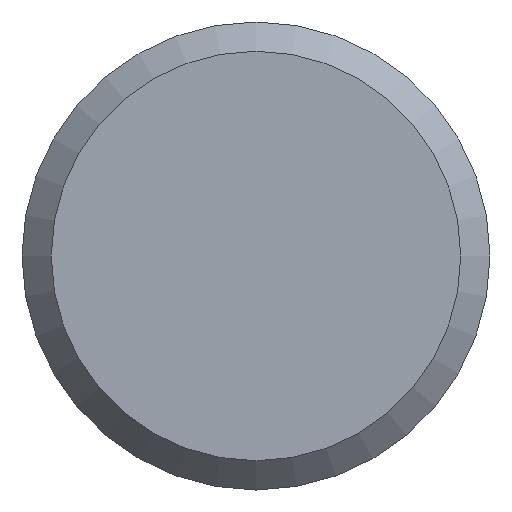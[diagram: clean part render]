
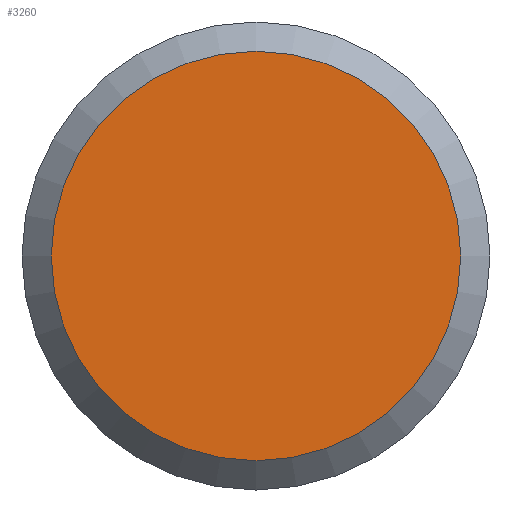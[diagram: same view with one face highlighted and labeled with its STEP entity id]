
A CAD part, left-side view. The second image highlights one B-rep face of the part: STEP entity #3260.
In plain terms, the highlighted planar face has unit normal (-1, 0, 0).
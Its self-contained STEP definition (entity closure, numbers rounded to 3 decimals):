
#1140=PLANE('',#3004);
#1225=ORIENTED_EDGE('',*,*,#1661,.F.);
#1441=CIRCLE('',#3003,7.);
#1551=VERTEX_POINT('',#2671);
#1661=EDGE_CURVE('',#1551,#1551,#1441,.T.);
#1775=EDGE_LOOP('',(#1225));
#1995=FACE_BOUND('',#1775,.T.);
#2223=DIRECTION('',(1.,0.,0.));
#2224=DIRECTION('',(0.,-7.,0.));
#2225=DIRECTION('',(-1.,0.,0.));
#2226=DIRECTION('',(0.,1.,0.));
#2671=CARTESIAN_POINT('',(82.058,281.131,0.));
#2672=CARTESIAN_POINT('',(82.058,288.131,0.));
#2673=CARTESIAN_POINT('',(82.058,288.131,0.));
#3003=AXIS2_PLACEMENT_3D('',#2672,#2223,#2224);
#3004=AXIS2_PLACEMENT_3D('',#2673,#2225,#2226);
#3260=ADVANCED_FACE('',(#1995),#1140,.T.);
